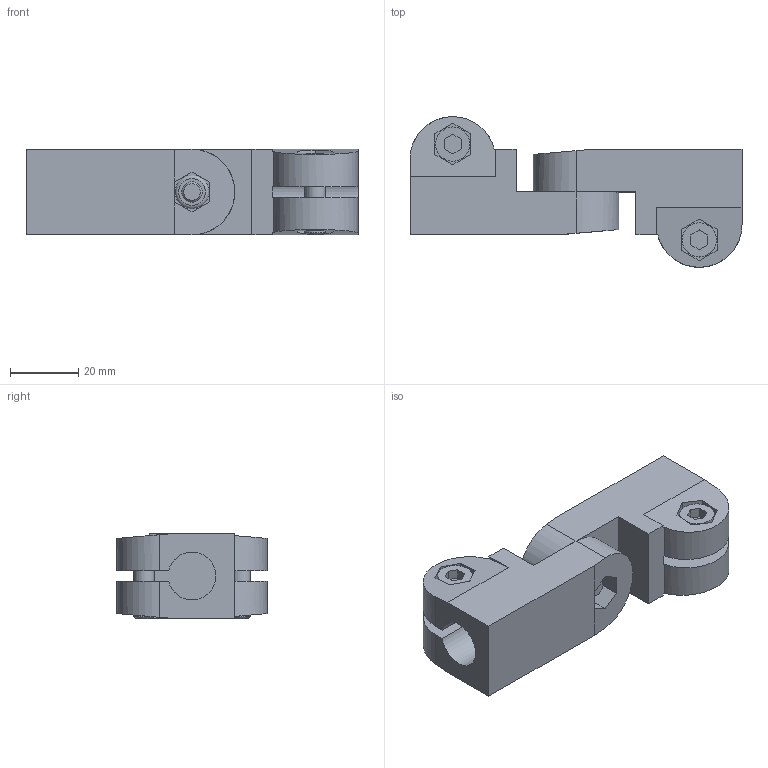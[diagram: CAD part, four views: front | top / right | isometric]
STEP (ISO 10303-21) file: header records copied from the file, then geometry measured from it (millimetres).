
FILE_DESCRIPTION( ( 'STEP AP203' ), '1' );
FILE_NAME( 'C:/Temp/Ganter_Step_05_03_2020/data/3_7/285/Swivel clamp connector joint GN 285-B14-B12-2-SW (0).stp', '2020-03-12T14:32:44', ( 'License CC BY-ND 4.0' ), ( 'CADENAS' ), ' ', 'PARTsolutions', ' ' );
FILE_SCHEMA( ( 'CONFIG_CONTROL_DESIGN' ) );
Length unit declared in the file: millimetre
Products named in the file (5): Swivel clamp connector joint GN 285-B14-B12-2-SW (0); _Swivel clamp connector base GN 285-B14-B12-2-SW-1; _Swivel clamp connector base GN 285-B14-B12-2-SW (0)-2; _Screw GN 285-M6-2; _Nut GN 285-M6-1
Assembly tree (4 placements, depth 2):
  Swivel clamp connector joint GN 285-B14-B12-2-SW (0)
    _Swivel clamp connector base GN 285-B14-B12-2-SW-1
    _Swivel clamp connector base GN 285-B14-B12-2-SW (0)-2
    _Screw GN 285-M6-2
    _Nut GN 285-M6-1
Bounding box: 97 x 44 x 25 mm (x, y, z)
Volume: 53371.8 mm3; surface area: 20641.7 mm2
Topology: 4 solids, 4 shells, 160 faces, 394 edges, 260 vertices
Faces by surface type: plane 126, cylinder 24, cone 8, torus 2
Full cylindrical faces by diameter (mm): 4.917 x1, 6 x5, 6.5 x2, 7 x4, 9.84 x1, 10 x3
Entity records: 4738 total; most frequent: CARTESIAN_POINT 886, DIRECTION 734, ORIENTED_EDGE 720, EDGE_CURVE 360, LINE 292, VECTOR 292, VERTEX_POINT 253, AXIS2_PLACEMENT_3D 221
